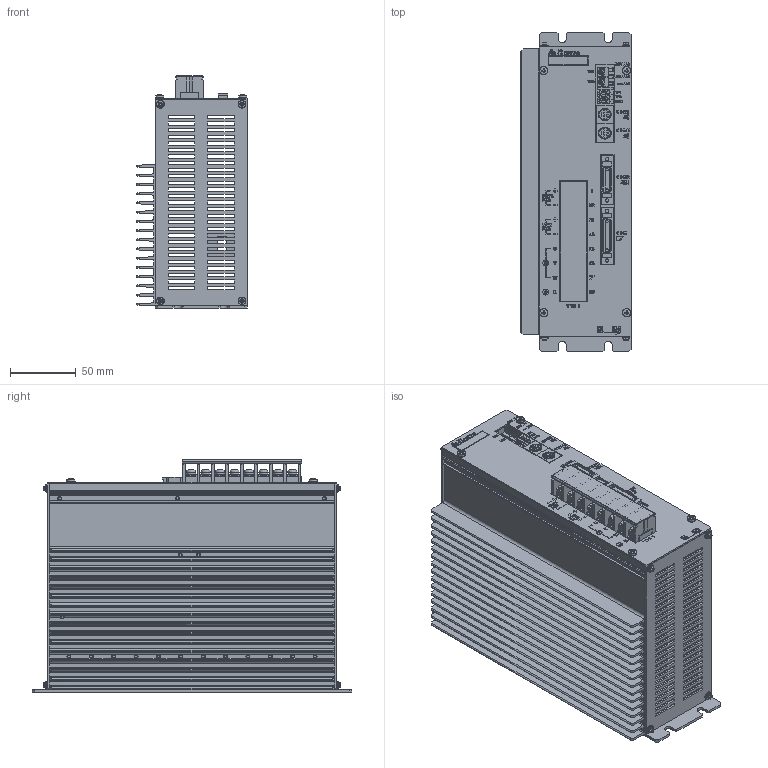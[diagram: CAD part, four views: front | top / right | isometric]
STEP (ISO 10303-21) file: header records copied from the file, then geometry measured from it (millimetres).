
FILE_DESCRIPTION(('HOOPS Exchange Step'),'2;1');
FILE_NAME('/tmp/96d558140c75c14613ce0f44a4f77ec420210922-1-ob0jkm.X_T.step','2021-09-22T01:03:22+00:00',('root'),('Unknown organisation'),'HOOPS Exchange 2021.0','HOOPS Exchange','Unknown authorisation');
FILE_SCHEMA( ('AUTOMOTIVE_DESIGN { 1 0 10303 214 1 1 1 1 }') );
Length unit declared in the file: millimetre
Products named in the file (1): 96d558140c75c14613ce0f44a4f77ec420210922-1-ob0jkm
Bounding box: 84 x 243 x 176.6 mm (x, y, z)
Volume: 447964.5 mm3; surface area: 388009.7 mm2
Topology: 132 solids, 1131 shells, 3449 faces, 13610 edges, 11351 vertices
Faces by surface type: plane 2721, cylinder 650, bspline 64, cone 14
Full cylindrical faces by diameter (mm): 0.45 x6, 0.5 x4, 2 x4, 2.1 x3, 2.2 x35, 2.5 x11, 3 x53, 3.2 x6, 3.5 x12, 4 x32, 5.5 x8, 6 x18, 7 x8, 8 x8
Entity records: 161108 total; most frequent: CARTESIAN_POINT 47696, ORIENTED_EDGE 20551, DIRECTION 20135, EDGE_CURVE 13587, VERTEX_POINT 11345, VECTOR 9611, LINE 9611, AXIS2_PLACEMENT_3D 5262
